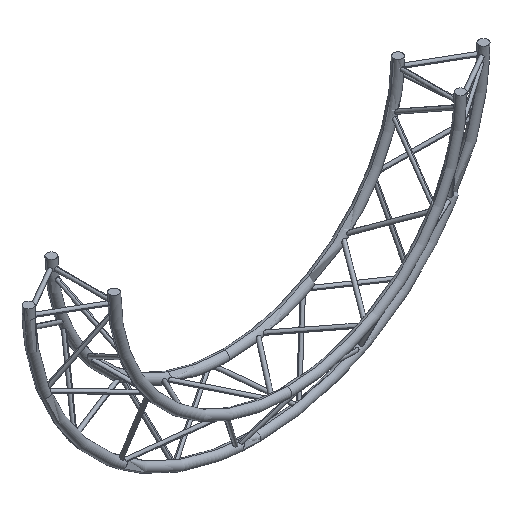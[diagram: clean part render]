
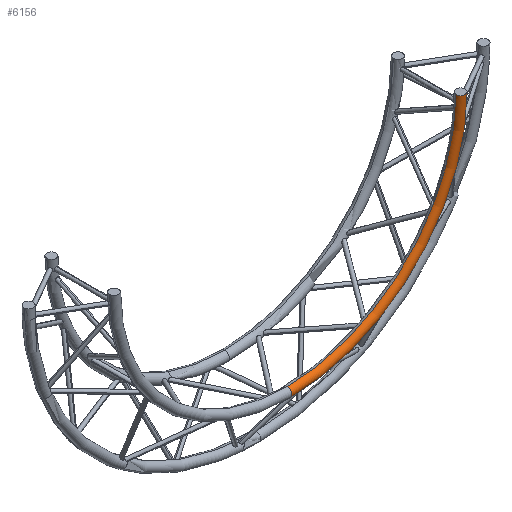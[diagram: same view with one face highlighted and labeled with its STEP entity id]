
A CAD part, isometric view. The second image highlights one B-rep face of the part: STEP entity #6156.
In plain terms, the highlighted toroidal (fillet/blend) face has major radius 933.149 mm and minor radius 25 mm.
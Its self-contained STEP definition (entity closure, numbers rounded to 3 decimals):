
#699 = CARTESIAN_POINT ( 'NONE',  ( 958.149, -168.5, 0. ) ) ;
#700 = CARTESIAN_POINT ( 'NONE',  ( 0., -168.5, -958.149 ) ) ;
#701 = CARTESIAN_POINT ( 'NONE',  ( 0., -168.5, -908.149 ) ) ;
#702 = DIRECTION ( 'NONE',  ( 0., 0., 1. ) ) ;
#703 = DIRECTION ( 'NONE',  ( -1., 0., 0. ) ) ;
#704 = CARTESIAN_POINT ( 'NONE',  ( 0., -168.5, -933.149 ) ) ;
#705 = AXIS2_PLACEMENT_3D ( 'NONE', #704, #703, #702 ) ;
#706 = DIRECTION ( 'NONE',  ( 0., 0., -1. ) ) ;
#707 = DIRECTION ( 'NONE',  ( 0., -1., 0. ) ) ;
#708 = CARTESIAN_POINT ( 'NONE',  ( 0., -168.5, 0. ) ) ;
#709 = AXIS2_PLACEMENT_3D ( 'NONE', #708, #707, #706 ) ;
#710 = CIRCLE ( 'NONE', #705, 25. ) ;
#711 = TOROIDAL_SURFACE ( 'NONE', #709, 933.149, 25. ) ;
#712 = FACE_OUTER_BOUND ( 'NONE', #6161, .T. ) ;
#752 = DIRECTION ( 'NONE',  ( 1., 0., 0. ) ) ;
#753 = DIRECTION ( 'NONE',  ( 0., 0., 1. ) ) ;
#754 = CARTESIAN_POINT ( 'NONE',  ( 933.149, -168.5, 0. ) ) ;
#755 = AXIS2_PLACEMENT_3D ( 'NONE', #754, #753, #752 ) ;
#756 = CIRCLE ( 'NONE', #755, 25. ) ;
#757 = DIRECTION ( 'NONE',  ( 0., 0., -1. ) ) ;
#758 = DIRECTION ( 'NONE',  ( 0., -1., 0. ) ) ;
#759 = CARTESIAN_POINT ( 'NONE',  ( 0., -168.5, 0. ) ) ;
#760 = AXIS2_PLACEMENT_3D ( 'NONE', #759, #758, #757 ) ;
#761 = CIRCLE ( 'NONE', #760, 958.149 ) ;
#767 = CARTESIAN_POINT ( 'NONE',  ( 908.149, -168.5, 0. ) ) ;
#6116 = EDGE_CURVE ( 'NONE', #6158, #6173, #10537, .T. ) ;
#6138 = ORIENTED_EDGE ( 'NONE', *, *, #6157, .F. ) ;
#6156 = ADVANCED_FACE ( 'NONE', ( #712 ), #711, .T. ) ;
#6157 = EDGE_CURVE ( 'NONE', #6159, #6158, #710, .T. ) ;
#6158 = VERTEX_POINT ( 'NONE', #701 ) ;
#6159 = VERTEX_POINT ( 'NONE', #700 ) ;
#6160 = ORIENTED_EDGE ( 'NONE', *, *, #6164, .T. ) ;
#6161 = EDGE_LOOP ( 'NONE', ( #6138, #6160, #6169, #6166 ) ) ;
#6162 = VERTEX_POINT ( 'NONE', #699 ) ;
#6164 = EDGE_CURVE ( 'NONE', #6159, #6162, #761, .T. ) ;
#6165 = EDGE_CURVE ( 'NONE', #6173, #6162, #756, .T. ) ;
#6166 = ORIENTED_EDGE ( 'NONE', *, *, #6116, .F. ) ;
#6169 = ORIENTED_EDGE ( 'NONE', *, *, #6165, .F. ) ;
#6173 = VERTEX_POINT ( 'NONE', #767 ) ;
#10535 = CARTESIAN_POINT ( 'NONE',  ( 0., -168.5, 0. ) ) ;
#10536 = AXIS2_PLACEMENT_3D ( 'NONE', #10535, #10614, #10613 ) ;
#10537 = CIRCLE ( 'NONE', #10536, 908.149 ) ;
#10613 = DIRECTION ( 'NONE',  ( 0., 0., -1. ) ) ;
#10614 = DIRECTION ( 'NONE',  ( 0., -1., 0. ) ) ;
